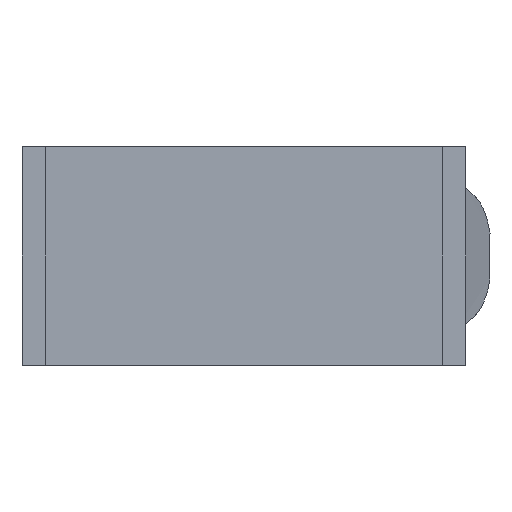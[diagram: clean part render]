
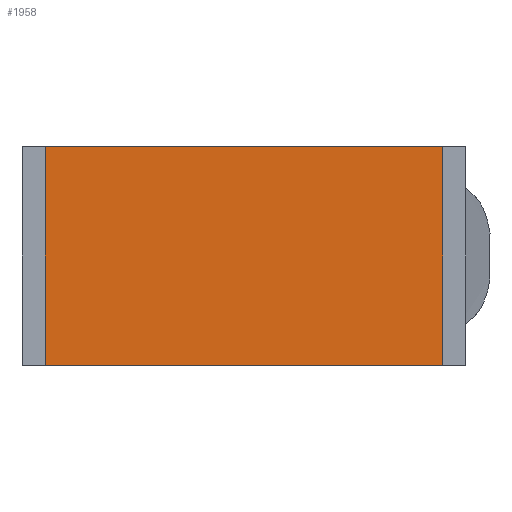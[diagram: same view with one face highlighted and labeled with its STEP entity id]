
A CAD part, front view. The second image highlights one B-rep face of the part: STEP entity #1958.
In plain terms, the highlighted planar face has unit normal (0, -1, 0).
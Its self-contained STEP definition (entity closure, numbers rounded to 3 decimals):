
#56 = VECTOR ( 'NONE', #1549, 1000. ) ;
#662 = VECTOR ( 'NONE', #6219, 1000. ) ;
#969 = CARTESIAN_POINT ( 'NONE',  ( -15., 0., 8.25 ) ) ;
#1549 = DIRECTION ( 'NONE',  ( 1., 0., 0. ) ) ;
#1578 = VERTEX_POINT ( 'NONE', #11049 ) ;
#1958 = ADVANCED_FACE ( 'NONE', ( #7196 ), #4229, .F. ) ;
#2727 = EDGE_CURVE ( 'NONE', #8112, #1578, #12608, .T. ) ;
#2777 = DIRECTION ( 'NONE',  ( 0., 0., 1. ) ) ;
#3481 = ORIENTED_EDGE ( 'NONE', *, *, #4032, .T. ) ;
#3651 = CARTESIAN_POINT ( 'NONE',  ( -15., 0., 8.25 ) ) ;
#4032 = EDGE_CURVE ( 'NONE', #11513, #14636, #6380, .T. ) ;
#4127 = LINE ( 'NONE', #9876, #56 ) ;
#4229 = PLANE ( 'NONE',  #8823 ) ;
#4290 = DIRECTION ( 'NONE',  ( 0., 1., 0. ) ) ;
#5005 = DIRECTION ( 'NONE',  ( 0., 0., -1. ) ) ;
#5306 = VECTOR ( 'NONE', #9717, 1000. ) ;
#6002 = EDGE_CURVE ( 'NONE', #1578, #11513, #4127, .T. ) ;
#6219 = DIRECTION ( 'NONE',  ( 1., 0., 0. ) ) ;
#6380 = LINE ( 'NONE', #17527, #5306 ) ;
#6496 = EDGE_CURVE ( 'NONE', #8112, #14636, #10932, .T. ) ;
#7196 = FACE_OUTER_BOUND ( 'NONE', #8035, .T. ) ;
#7742 = VECTOR ( 'NONE', #5005, 1000. ) ;
#8035 = EDGE_LOOP ( 'NONE', ( #3481, #9047, #17615, #8543 ) ) ;
#8112 = VERTEX_POINT ( 'NONE', #14430 ) ;
#8543 = ORIENTED_EDGE ( 'NONE', *, *, #6002, .T. ) ;
#8823 = AXIS2_PLACEMENT_3D ( 'NONE', #11037, #4290, #2777 ) ;
#9047 = ORIENTED_EDGE ( 'NONE', *, *, #6496, .F. ) ;
#9717 = DIRECTION ( 'NONE',  ( 0., 0., 1. ) ) ;
#9876 = CARTESIAN_POINT ( 'NONE',  ( 0., 0., -8.25 ) ) ;
#10932 = LINE ( 'NONE', #969, #662 ) ;
#11037 = CARTESIAN_POINT ( 'NONE',  ( -15., 0., 8.25 ) ) ;
#11049 = CARTESIAN_POINT ( 'NONE',  ( -15., 0., -8.25 ) ) ;
#11513 = VERTEX_POINT ( 'NONE', #16366 ) ;
#12608 = LINE ( 'NONE', #3651, #7742 ) ;
#14430 = CARTESIAN_POINT ( 'NONE',  ( -15., 0., 8.25 ) ) ;
#14636 = VERTEX_POINT ( 'NONE', #16184 ) ;
#16184 = CARTESIAN_POINT ( 'NONE',  ( 15., 0., 8.25 ) ) ;
#16366 = CARTESIAN_POINT ( 'NONE',  ( 15., 0., -8.25 ) ) ;
#17527 = CARTESIAN_POINT ( 'NONE',  ( 15., 0., 8.25 ) ) ;
#17615 = ORIENTED_EDGE ( 'NONE', *, *, #2727, .T. ) ;
